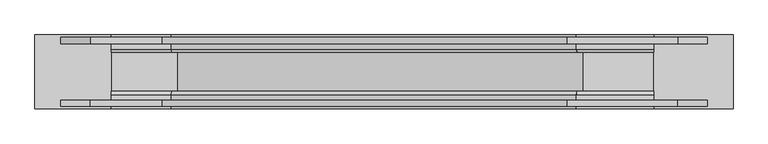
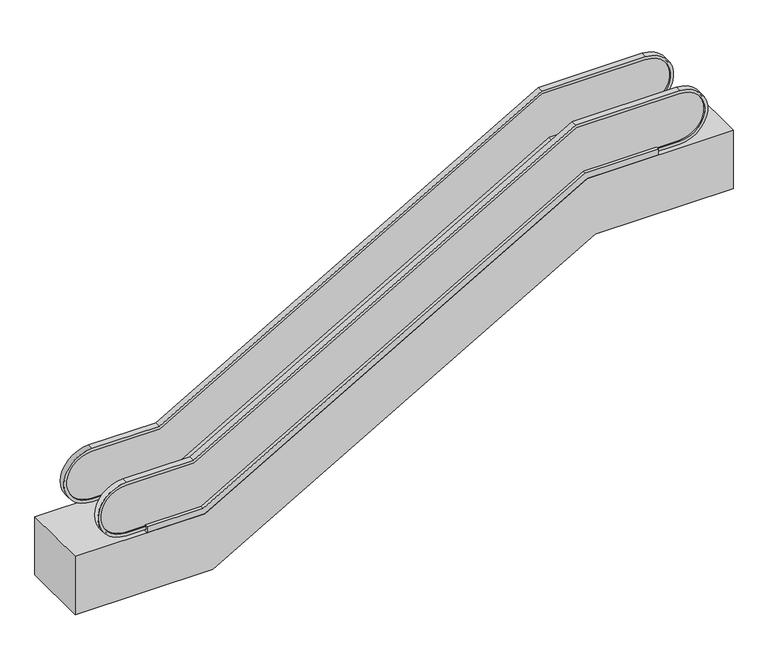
"""IFC4 building model written with IfcOpenShell, lengths in millimetres: proxy geometry, XX211- 에스컬레이터 공칭스텝폭 800 : 800형."""

from ifc_helpers import new_model, si_unit, point, frame, frame_2d, origin, place, context, project, spatial, polyline, circle_curve, trimmed, segment, composite_curve, outline, extrude, faceted_brep, source, transform, mapped, element, save
from ifc_brep_helpers import plane_surface, cylinder_surface, revolved_surface, advanced_brep


def electrical_equipment_015b20d0(model_context):
    return source(origin(), model_context, "Body", "SolidModel", [
        faceted_brep([(0.0, -575.0, 0.0), (-2145.0, -575.0, 0.0), (-2145.0, -575.0, -1020.0), (133.3081763, -575.0, -1020.0), (6455.2936239, -575.0, 2630.0), (8736.9854476, -575.0, 2630.0), (8736.9854476, -575.0, 3650.0), (6321.9854476, -575.0, 3650.0), (0.0, 575.0, 0.0), (6321.9854476, 575.0, 3650.0), (8736.9854476, 575.0, 3650.0), (8736.9854476, 575.0, 2630.0), (6455.2936239, 575.0, 2630.0), (133.3081763, 575.0, -1020.0), (-2145.0, 575.0, -1020.0), (-2145.0, 575.0, 0.0), (0.0, -465.0, 0.0), (-955.0, -465.0, 0.0), (-955.0, 465.0, 0.0), (0.0, 465.0, 0.0), (6321.9854476, 465.0, 3650.0), (7501.9854476, 465.0, 3650.0), (7501.9854476, -465.0, 3650.0), (6321.9854476, -465.0, 3650.0), (7501.9854476, -465.0, 3351.5648685), (6405.0806371, -465.0, 3351.5648685), (80.3847577, -465.0, -300.0), (-955.0, -465.0, -300.0), (-955.0, 465.0, -300.0), (80.3847577, 465.0, -300.0), (6405.0806371, 465.0, 3351.5648685), (7501.9854476, 465.0, 3351.5648685)], [[[0, 1, 2, 3, 4, 5, 6, 7]], [[8, 9, 10, 11, 12, 13, 14, 15]], [[1, 0, 16, 17, 18, 19, 8, 15]], [[2, 1, 15, 14]], [[3, 2, 14, 13]], [[4, 3, 13, 12]], [[5, 4, 12, 11]], [[6, 5, 11, 10]], [[7, 6, 10, 9, 20, 21, 22, 23]], [[0, 7, 23, 16]], [[9, 8, 19, 20]], [[22, 24, 25, 26, 27, 17, 16, 23]], [[18, 28, 29, 30, 31, 21, 20, 19]], [[17, 27, 28, 18]], [[27, 26, 29, 28]], [[26, 25, 30, 29]], [[25, 24, 31, 30]], [[24, 22, 21, 31]]]),
        advanced_brep(
        [(6161.0235533, 460.0, 4600.0), (6161.0235533, 520.0, 4600.0), (7871.9854476, 520.0, 4600.0), (7871.9854476, 460.0, 4600.0), (6169.0620291, 440.0, 4570.0), (6169.0620291, 460.0, 4570.0), (7871.9854476, 460.0, 4570.0), (7871.9854476, 440.0, 4570.0), (6155.6645695, 540.0, 4620.0), (6155.6645695, 440.0, 4620.0), (7871.9854476, 440.0, 4620.0), (7871.9854476, 540.0, 4620.0), (6169.0620291, 520.0, 4570.0), (6169.0620291, 540.0, 4570.0), (7871.9854476, 540.0, 4570.0), (7871.9854476, 520.0, 4570.0), (7871.9854476, 460.0, 3710.0), (7871.9854476, 520.0, 3710.0), (7871.9854476, 440.0, 3740.0), (7871.9854476, 460.0, 3740.0), (7871.9854476, 540.0, 3690.0), (7871.9854476, 440.0, 3690.0), (7871.9854476, 520.0, 3740.0), (7871.9854476, 540.0, 3740.0), (6329.8315445, 520.0, 3710.0), (6329.8315445, 460.0, 3710.0), (6321.7930688, 460.0, 3740.0), (6321.7930688, 440.0, 3740.0), (6335.1905284, 440.0, 3690.0), (6335.1905284, 540.0, 3690.0), (6321.7930688, 540.0, 3740.0), (6321.7930688, 520.0, 3740.0), (7.8460969, 520.0, 60.0), (7.8460969, 460.0, 60.0), (-0.1923789, 460.0, 90.0), (-0.1923789, 440.0, 90.0), (13.2050808, 440.0, 40.0), (13.2050808, 540.0, 40.0), (-0.1923789, 540.0, 90.0), (-0.1923789, 520.0, 90.0), (-1280.0, 520.0, 60.0), (-1280.0, 460.0, 60.0), (-1280.0, 460.0, 90.0), (-1280.0, 440.0, 90.0), (-1280.0, 440.0, 40.0), (-1280.0, 540.0, 40.0), (-1280.0, 540.0, 90.0), (-1280.0, 520.0, 90.0), (-1280.0, 460.0, 950.0), (-1280.0, 520.0, 950.0), (-1280.0, 440.0, 920.0), (-1280.0, 460.0, 920.0), (-1280.0, 540.0, 970.0), (-1280.0, 440.0, 970.0), (-1280.0, 520.0, 920.0), (-1280.0, 540.0, 920.0), (-160.9618943, 520.0, 950.0), (-160.9618943, 460.0, 950.0), (-152.9234186, 460.0, 920.0), (-152.9234186, 440.0, 920.0), (-166.3208782, 440.0, 970.0), (-166.3208782, 540.0, 970.0), (-152.9234186, 540.0, 920.0), (-152.9234186, 520.0, 920.0)],
        [
            (0, 1),
            (1, 2),
            (2, 3),
            (3, 0),
            (4, 5),
            (5, 6),
            (6, 7),
            (7, 4),
            (8, 9),
            (9, 10),
            (10, 11),
            (11, 8),
            (12, 13),
            (13, 14),
            (14, 15),
            (15, 12),
            (16, 3, circle_curve(frame((7871.9854476, 460.0, 4155.0), z_axis=(0.0, -1.0, 0.0), x_axis=(0.0, 0.0, 1.0)), 445.0)),
            (2, 17, circle_curve(frame((7871.9854476, 520.0, 4155.0), z_axis=(0.0, 1.0, 0.0), x_axis=(0.0, 0.0, 1.0)), 445.0)),
            (17, 16),
            (18, 7, circle_curve(frame((7871.9854476, 440.0, 4155.0), z_axis=(0.0, -1.0, 0.0), x_axis=(0.0, 0.0, 1.0)), 415.0)),
            (6, 19, circle_curve(frame((7871.9854476, 460.0, 4155.0), z_axis=(0.0, 1.0, 0.0), x_axis=(0.0, 0.0, 1.0)), 415.0)),
            (19, 18),
            (20, 11, circle_curve(frame((7871.9854476, 540.0, 4155.0), z_axis=(0.0, -1.0, 0.0), x_axis=(0.0, 0.0, 1.0)), 465.0)),
            (10, 21, circle_curve(frame((7871.9854476, 440.0, 4155.0), z_axis=(0.0, 1.0, 0.0), x_axis=(0.0, 0.0, 1.0)), 465.0)),
            (21, 20),
            (22, 15, circle_curve(frame((7871.9854476, 520.0, 4155.0), z_axis=(0.0, -1.0, 0.0), x_axis=(0.0, 0.0, 1.0)), 415.0)),
            (14, 23, circle_curve(frame((7871.9854476, 540.0, 4155.0), z_axis=(0.0, 1.0, 0.0), x_axis=(0.0, 0.0, 1.0)), 415.0)),
            (23, 22),
            (17, 24),
            (24, 25),
            (25, 16),
            (19, 26),
            (26, 27),
            (27, 18),
            (21, 28),
            (28, 29),
            (29, 20),
            (23, 30),
            (30, 31),
            (31, 22),
            (24, 32),
            (32, 33),
            (33, 25),
            (26, 34),
            (34, 35),
            (35, 27),
            (28, 36),
            (36, 37),
            (37, 29),
            (30, 38),
            (38, 39),
            (39, 31),
            (32, 40),
            (40, 41),
            (41, 33),
            (34, 42),
            (42, 43),
            (43, 35),
            (36, 44),
            (44, 45),
            (45, 37),
            (38, 46),
            (46, 47),
            (47, 39),
            (48, 41, circle_curve(frame((-1280.0, 460.0, 505.0), z_axis=(0.0, -1.0, 0.0), x_axis=(0.0, 0.0, -1.0)), 445.0)),
            (40, 49, circle_curve(frame((-1280.0, 520.0, 505.0), z_axis=(0.0, 1.0, 0.0), x_axis=(0.0, 0.0, -1.0)), 445.0)),
            (49, 48),
            (50, 43, circle_curve(frame((-1280.0, 440.0, 505.0), z_axis=(0.0, -1.0, 0.0), x_axis=(0.0, 0.0, -1.0)), 415.0)),
            (42, 51, circle_curve(frame((-1280.0, 460.0, 505.0), z_axis=(0.0, 1.0, 0.0), x_axis=(0.0, 0.0, -1.0)), 415.0)),
            (51, 50),
            (52, 45, circle_curve(frame((-1280.0, 540.0, 505.0), z_axis=(0.0, -1.0, 0.0), x_axis=(0.0, 0.0, -1.0)), 465.0)),
            (44, 53, circle_curve(frame((-1280.0, 440.0, 505.0), z_axis=(0.0, 1.0, 0.0), x_axis=(0.0, 0.0, -1.0)), 465.0)),
            (53, 52),
            (54, 47, circle_curve(frame((-1280.0, 520.0, 505.0), z_axis=(0.0, -1.0, 0.0), x_axis=(0.0, 0.0, -1.0)), 415.0)),
            (46, 55, circle_curve(frame((-1280.0, 540.0, 505.0), z_axis=(0.0, 1.0, 0.0), x_axis=(0.0, 0.0, -1.0)), 415.0)),
            (55, 54),
            (49, 56),
            (56, 57),
            (57, 48),
            (51, 58),
            (58, 59),
            (59, 50),
            (53, 60),
            (60, 61),
            (61, 52),
            (55, 62),
            (62, 63),
            (63, 54),
            (56, 1),
            (0, 57),
            (5, 58),
            (4, 59),
            (9, 60),
            (8, 61),
            (13, 62),
            (12, 63),
        ],
        [
            plane_surface(frame((6161.0235533, 520.0, 4600.0), z_axis=(0.0, 0.0, -1.0), x_axis=(1.0, 0.0, 0.0))),
            plane_surface(frame((6169.0620291, 460.0, 4570.0), z_axis=(0.0, 0.0, -1.0), x_axis=(1.0, 0.0, 0.0))),
            plane_surface(frame((6155.6645695, 440.0, 4620.0), z_axis=(0.0, 0.0, 1.0), x_axis=(1.0, 0.0, 0.0))),
            plane_surface(frame((6169.0620291, 540.0, 4570.0), z_axis=(0.0, 0.0, -1.0), x_axis=(1.0, 0.0, 0.0))),
            revolved_surface(polyline([(7871.9854476, 520.0, 4600.0), (7871.9854476, 460.0, 4600.0)]), (7871.9854476, 515.0, 4155.0), (0.0, 1.0, 0.0)),
            revolved_surface(polyline([(7871.9854476, 460.0, 4570.0), (7871.9854476, 440.0, 4570.0)]), (7871.9854476, 515.0, 4155.0), (0.0, 1.0, 0.0)),
            cylinder_surface(frame((7871.9854476, 515.0, 4155.0), z_axis=(0.0, 1.0, 0.0), x_axis=(0.0, 0.0, 1.0)), 465.0),
            revolved_surface(polyline([(7871.9854476, 540.0, 4570.0), (7871.9854476, 520.0, 4570.0)]), (7871.9854476, 515.0, 4155.0), (0.0, 1.0, 0.0)),
            plane_surface(frame((7871.9854476, 520.0, 3710.0), z_axis=(0.0, 0.0, 1.0), x_axis=(-1.0, 0.0, 0.0))),
            plane_surface(frame((7871.9854476, 460.0, 3740.0), z_axis=(0.0, 0.0, 1.0), x_axis=(-1.0, 0.0, 0.0))),
            plane_surface(frame((7871.9854476, 440.0, 3690.0), z_axis=(0.0, 0.0, -1.0), x_axis=(-1.0, 0.0, 0.0))),
            plane_surface(frame((7871.9854476, 540.0, 3740.0), z_axis=(0.0, 0.0, 1.0), x_axis=(-1.0, 0.0, 0.0))),
            plane_surface(frame((6329.8315445, 520.0, 3710.0), z_axis=(-0.49999999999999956, 0.0, 0.8660254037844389), x_axis=(-0.8660254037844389, 0.0, -0.49999999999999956))),
            plane_surface(frame((6321.7930688, 460.0, 3740.0), z_axis=(-0.4999999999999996, 0.0, 0.8660254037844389), x_axis=(-0.8660254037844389, 0.0, -0.4999999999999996))),
            plane_surface(frame((6335.1905284, 440.0, 3690.0), z_axis=(0.4999999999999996, 0.0, -0.8660254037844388), x_axis=(-0.8660254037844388, 0.0, -0.4999999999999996))),
            plane_surface(frame((6321.7930688, 540.0, 3740.0), z_axis=(-0.4999999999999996, 0.0, 0.8660254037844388), x_axis=(-0.8660254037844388, 0.0, -0.4999999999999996))),
            plane_surface(frame((7.8460969, 520.0, 60.0), z_axis=(0.0, 0.0, 1.0), x_axis=(-1.0, 0.0, 0.0))),
            plane_surface(frame((-0.1923789, 460.0, 90.0), z_axis=(0.0, 0.0, 1.0), x_axis=(-1.0, 0.0, 0.0))),
            plane_surface(frame((13.2050808, 440.0, 40.0), z_axis=(0.0, 0.0, -1.0), x_axis=(-1.0, 0.0, 0.0))),
            plane_surface(frame((-0.1923789, 540.0, 90.0), z_axis=(0.0, 0.0, 1.0), x_axis=(-1.0, 0.0, 0.0))),
            revolved_surface(polyline([(-1280.0, 520.0, 60.0), (-1280.0, 460.0, 60.0)]), (-1280.0, 515.0, 505.0), (0.0, 1.0, 0.0)),
            revolved_surface(polyline([(-1280.0, 460.0, 90.0), (-1280.0, 440.0, 90.0)]), (-1280.0, 515.0, 505.0), (0.0, 1.0, 0.0)),
            cylinder_surface(frame((-1280.0, 515.0, 505.0), z_axis=(0.0, 1.0, 0.0), x_axis=(0.0, 0.0, -1.0)), 465.0),
            revolved_surface(polyline([(-1280.0, 540.0, 90.0), (-1280.0, 520.0, 90.0)]), (-1280.0, 515.0, 505.0), (0.0, 1.0, 0.0)),
            plane_surface(frame((-1280.0, 520.0, 950.0), z_axis=(0.0, 0.0, -1.0), x_axis=(1.0, 0.0, 0.0))),
            plane_surface(frame((-1280.0, 460.0, 920.0), z_axis=(0.0, 0.0, -1.0), x_axis=(1.0, 0.0, 0.0))),
            plane_surface(frame((-1280.0, 440.0, 970.0), z_axis=(0.0, 0.0, 1.0), x_axis=(1.0, 0.0, 0.0))),
            plane_surface(frame((-1280.0, 540.0, 920.0), z_axis=(0.0, 0.0, -1.0), x_axis=(1.0, 0.0, 0.0))),
            plane_surface(frame((-160.9618943, 520.0, 950.0), z_axis=(0.49999999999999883, 0.0, -0.8660254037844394), x_axis=(0.8660254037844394, 0.0, 0.49999999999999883))),
            plane_surface(frame((-160.9618943, 460.0, 950.0), z_axis=(0.0, 1.0000000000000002, 0.0), x_axis=(0.8660254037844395, 0.0, 0.4999999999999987))),
            plane_surface(frame((-152.9234186, 460.0, 920.0), z_axis=(0.4999999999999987, 0.0, -0.8660254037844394), x_axis=(0.8660254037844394, 0.0, 0.4999999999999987))),
            plane_surface(frame((-152.9234186, 440.0, 920.0), z_axis=(0.0, -1.0, 0.0), x_axis=(0.8660254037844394, 0.0, 0.49999999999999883))),
            plane_surface(frame((-166.3208782, 440.0, 970.0), z_axis=(-0.4999999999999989, 0.0, 0.8660254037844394), x_axis=(0.8660254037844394, 0.0, 0.4999999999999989))),
            plane_surface(frame((-166.3208782, 540.0, 970.0), z_axis=(0.0, 1.0, 0.0), x_axis=(0.8660254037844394, 0.0, 0.49999999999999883))),
            plane_surface(frame((-152.9234186, 540.0, 920.0), z_axis=(0.4999999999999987, 0.0, -0.8660254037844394), x_axis=(0.8660254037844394, 0.0, 0.4999999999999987))),
            plane_surface(frame((-152.9234186, 520.0, 920.0), z_axis=(0.0, -1.0, 0.0), x_axis=(0.8660254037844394, 0.0, 0.4999999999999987))),
        ],
        [
            (0, [[1, 2, 3, 4]]),
            (1, [[5, 6, 7, 8]]),
            (2, [[9, 10, 11, 12]]),
            (3, [[13, 14, 15, 16]]),
            (4, [[17, -3, 18, 19]]),
            (5, [[20, -7, 21, 22]]),
            (6, [[23, -11, 24, 25]]),
            (7, [[26, -15, 27, 28]]),
            (8, [[-19, 29, 30, 31]]),
            (9, [[-22, 32, 33, 34]]),
            (10, [[-25, 35, 36, 37]]),
            (11, [[-28, 38, 39, 40]]),
            (12, [[-30, 41, 42, 43]]),
            (13, [[-33, 44, 45, 46]]),
            (14, [[-36, 47, 48, 49]]),
            (15, [[-39, 50, 51, 52]]),
            (16, [[-42, 53, 54, 55]]),
            (17, [[-45, 56, 57, 58]]),
            (18, [[-48, 59, 60, 61]]),
            (19, [[-51, 62, 63, 64]]),
            (20, [[65, -54, 66, 67]]),
            (21, [[68, -57, 69, 70]]),
            (22, [[71, -60, 72, 73]]),
            (23, [[74, -63, 75, 76]]),
            (24, [[-67, 77, 78, 79]]),
            (25, [[-70, 80, 81, 82]]),
            (26, [[-73, 83, 84, 85]]),
            (27, [[-76, 86, 87, 88]]),
            (28, [[-78, 89, -1, 90]]),
            (29, [[-65, -79, -90, -4, -17, -31, -43, -55], [91, -80, -69, -56, -44, -32, -21, -6]]),
            (30, [[-81, -91, -5, 92]]),
            (31, [[93, -83, -72, -59, -47, -35, -24, -10], [-68, -82, -92, -8, -20, -34, -46, -58]]),
            (32, [[-84, -93, -9, 94]]),
            (33, [[-71, -85, -94, -12, -23, -37, -49, -61], [95, -86, -75, -62, -50, -38, -27, -14]]),
            (34, [[-87, -95, -13, 96]]),
            (35, [[-89, -77, -66, -53, -41, -29, -18, -2], [-74, -88, -96, -16, -26, -40, -52, -64]]),
        ],
    ),
        advanced_brep(
        [(-160.9618943, -460.0, 950.0), (-160.9618943, -520.0, 950.0), (-1280.0, -520.0, 950.0), (-1280.0, -460.0, 950.0), (-152.9234186, -440.0, 920.0), (-152.9234186, -460.0, 920.0), (-1280.0, -460.0, 920.0), (-1280.0, -440.0, 920.0), (-166.3208782, -540.0, 970.0), (-166.3208782, -440.0, 970.0), (-1280.0, -440.0, 970.0), (-1280.0, -540.0, 970.0), (-152.9234186, -520.0, 920.0), (-152.9234186, -540.0, 920.0), (-1280.0, -540.0, 920.0), (-1280.0, -520.0, 920.0), (-1280.0, -460.0, 60.0), (-1280.0, -520.0, 60.0), (-1280.0, -440.0, 90.0), (-1280.0, -460.0, 90.0), (-1280.0, -540.0, 40.0), (-1280.0, -440.0, 40.0), (-1280.0, -520.0, 90.0), (-1280.0, -540.0, 90.0), (7.8460969, -520.0, 60.0), (7.8460969, -460.0, 60.0), (-0.1923789, -460.0, 90.0), (-0.1923789, -440.0, 90.0), (13.2050808, -440.0, 40.0), (13.2050808, -540.0, 40.0), (-0.1923789, -540.0, 90.0), (-0.1923789, -520.0, 90.0), (6329.8315445, -520.0, 3710.0), (6329.8315445, -460.0, 3710.0), (6321.7930688, -460.0, 3740.0), (6321.7930688, -440.0, 3740.0), (6335.1905284, -440.0, 3690.0), (6335.1905284, -540.0, 3690.0), (6321.7930688, -540.0, 3740.0), (6321.7930688, -520.0, 3740.0), (7871.9854476, -520.0, 3710.0), (7871.9854476, -460.0, 3710.0), (7871.9854476, -460.0, 3740.0), (7871.9854476, -440.0, 3740.0), (7871.9854476, -440.0, 3690.0), (7871.9854476, -540.0, 3690.0), (7871.9854476, -540.0, 3740.0), (7871.9854476, -520.0, 3740.0), (7871.9854476, -460.0, 4600.0), (7871.9854476, -520.0, 4600.0), (7871.9854476, -440.0, 4570.0), (7871.9854476, -460.0, 4570.0), (7871.9854476, -540.0, 4620.0), (7871.9854476, -440.0, 4620.0), (7871.9854476, -520.0, 4570.0), (7871.9854476, -540.0, 4570.0), (6161.0235533, -520.0, 4600.0), (6161.0235533, -460.0, 4600.0), (6169.0620291, -460.0, 4570.0), (6169.0620291, -440.0, 4570.0), (6155.6645695, -440.0, 4620.0), (6155.6645695, -540.0, 4620.0), (6169.0620291, -540.0, 4570.0), (6169.0620291, -520.0, 4570.0)],
        [
            (0, 1),
            (1, 2),
            (2, 3),
            (3, 0),
            (4, 5),
            (5, 6),
            (6, 7),
            (7, 4),
            (8, 9),
            (9, 10),
            (10, 11),
            (11, 8),
            (12, 13),
            (13, 14),
            (14, 15),
            (15, 12),
            (16, 3, circle_curve(frame((-1280.0, -460.0, 505.0), z_axis=(0.0, 1.0, 0.0), x_axis=(0.0, 0.0, 1.0)), 445.0)),
            (2, 17, circle_curve(frame((-1280.0, -520.0, 505.0), z_axis=(0.0, -1.0, 0.0), x_axis=(0.0, 0.0, 1.0)), 445.0)),
            (17, 16),
            (18, 7, circle_curve(frame((-1280.0, -440.0, 505.0), z_axis=(0.0, 1.0, 0.0), x_axis=(0.0, 0.0, 1.0)), 415.0)),
            (6, 19, circle_curve(frame((-1280.0, -460.0, 505.0), z_axis=(0.0, -1.0, 0.0), x_axis=(0.0, 0.0, 1.0)), 415.0)),
            (19, 18),
            (20, 11, circle_curve(frame((-1280.0, -540.0, 505.0), z_axis=(0.0, 1.0, 0.0), x_axis=(0.0, 0.0, 1.0)), 465.0)),
            (10, 21, circle_curve(frame((-1280.0, -440.0, 505.0), z_axis=(0.0, -1.0, 0.0), x_axis=(0.0, 0.0, 1.0)), 465.0)),
            (21, 20),
            (22, 15, circle_curve(frame((-1280.0, -520.0, 505.0), z_axis=(0.0, 1.0, 0.0), x_axis=(0.0, 0.0, 1.0)), 415.0)),
            (14, 23, circle_curve(frame((-1280.0, -540.0, 505.0), z_axis=(0.0, -1.0, 0.0), x_axis=(0.0, 0.0, 1.0)), 415.0)),
            (23, 22),
            (17, 24),
            (24, 25),
            (25, 16),
            (19, 26),
            (26, 27),
            (27, 18),
            (21, 28),
            (28, 29),
            (29, 20),
            (23, 30),
            (30, 31),
            (31, 22),
            (24, 32),
            (32, 33),
            (33, 25),
            (26, 34),
            (34, 35),
            (35, 27),
            (28, 36),
            (36, 37),
            (37, 29),
            (30, 38),
            (38, 39),
            (39, 31),
            (32, 40),
            (40, 41),
            (41, 33),
            (34, 42),
            (42, 43),
            (43, 35),
            (36, 44),
            (44, 45),
            (45, 37),
            (38, 46),
            (46, 47),
            (47, 39),
            (48, 41, circle_curve(frame((7871.9854476, -460.0, 4155.0), z_axis=(0.0, 1.0, 0.0), x_axis=(0.0, 0.0, -1.0)), 445.0)),
            (40, 49, circle_curve(frame((7871.9854476, -520.0, 4155.0), z_axis=(0.0, -1.0, 0.0), x_axis=(0.0, 0.0, -1.0)), 445.0)),
            (49, 48),
            (50, 43, circle_curve(frame((7871.9854476, -440.0, 4155.0), z_axis=(0.0, 1.0, 0.0), x_axis=(0.0, 0.0, -1.0)), 415.0)),
            (42, 51, circle_curve(frame((7871.9854476, -460.0, 4155.0), z_axis=(0.0, -1.0, 0.0), x_axis=(0.0, 0.0, -1.0)), 415.0)),
            (51, 50),
            (52, 45, circle_curve(frame((7871.9854476, -540.0, 4155.0), z_axis=(0.0, 1.0, 0.0), x_axis=(0.0, 0.0, -1.0)), 465.0)),
            (44, 53, circle_curve(frame((7871.9854476, -440.0, 4155.0), z_axis=(0.0, -1.0, 0.0), x_axis=(0.0, 0.0, -1.0)), 465.0)),
            (53, 52),
            (54, 47, circle_curve(frame((7871.9854476, -520.0, 4155.0), z_axis=(0.0, 1.0, 0.0), x_axis=(0.0, 0.0, -1.0)), 415.0)),
            (46, 55, circle_curve(frame((7871.9854476, -540.0, 4155.0), z_axis=(0.0, -1.0, 0.0), x_axis=(0.0, 0.0, -1.0)), 415.0)),
            (55, 54),
            (49, 56),
            (56, 57),
            (57, 48),
            (51, 58),
            (58, 59),
            (59, 50),
            (53, 60),
            (60, 61),
            (61, 52),
            (55, 62),
            (62, 63),
            (63, 54),
            (56, 1),
            (0, 57),
            (5, 58),
            (4, 59),
            (9, 60),
            (8, 61),
            (13, 62),
            (12, 63),
        ],
        [
            plane_surface(frame((-160.9618943, -520.0, 950.0), z_axis=(0.0, 0.0, -1.0), x_axis=(-1.0, 0.0, 0.0))),
            plane_surface(frame((-152.9234186, -460.0, 920.0), z_axis=(0.0, 0.0, -1.0), x_axis=(-1.0, 0.0, 0.0))),
            plane_surface(frame((-166.3208782, -440.0, 970.0), z_axis=(0.0, 0.0, 1.0), x_axis=(-1.0, 0.0, 0.0))),
            plane_surface(frame((-152.9234186, -540.0, 920.0), z_axis=(0.0, 0.0, -1.0), x_axis=(-1.0, 0.0, 0.0))),
            revolved_surface(polyline([(-1280.0, -520.0, 950.0), (-1280.0, -460.0, 950.0)]), (-1280.0, -515.0, 505.0), (0.0, -1.0, 0.0)),
            revolved_surface(polyline([(-1280.0, -460.0, 920.0), (-1280.0, -440.0, 920.0)]), (-1280.0, -515.0, 505.0), (0.0, -1.0, 0.0)),
            cylinder_surface(frame((-1280.0, -515.0, 505.0), z_axis=(0.0, -1.0, 0.0), x_axis=(0.0, 0.0, 1.0)), 465.0),
            revolved_surface(polyline([(-1280.0, -540.0, 920.0), (-1280.0, -520.0, 920.0)]), (-1280.0, -515.0, 505.0), (0.0, -1.0, 0.0)),
            plane_surface(frame((-1280.0, -520.0, 60.0), z_axis=(0.0, 0.0, 1.0), x_axis=(1.0, 0.0, 0.0))),
            plane_surface(frame((-1280.0, -460.0, 90.0), z_axis=(0.0, 0.0, 1.0), x_axis=(1.0, 0.0, 0.0))),
            plane_surface(frame((-1280.0, -440.0, 40.0), z_axis=(0.0, 0.0, -1.0), x_axis=(1.0, 0.0, 0.0))),
            plane_surface(frame((-1280.0, -540.0, 90.0), z_axis=(0.0, 0.0, 1.0), x_axis=(1.0, 0.0, 0.0))),
            plane_surface(frame((7.8460969, -520.0, 60.0), z_axis=(-0.5000000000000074, 0.0, 0.8660254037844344), x_axis=(0.8660254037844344, 0.0, 0.5000000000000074))),
            plane_surface(frame((-0.1923789, -460.0, 90.0), z_axis=(-0.5000000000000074, 0.0, 0.8660254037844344), x_axis=(0.8660254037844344, 0.0, 0.5000000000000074))),
            plane_surface(frame((13.2050808, -440.0, 40.0), z_axis=(0.5000000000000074, 0.0, -0.8660254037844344), x_axis=(0.8660254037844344, 0.0, 0.5000000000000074))),
            plane_surface(frame((-0.1923789, -540.0, 90.0), z_axis=(-0.5000000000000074, 0.0, 0.8660254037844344), x_axis=(0.8660254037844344, 0.0, 0.5000000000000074))),
            plane_surface(frame((6329.8315445, -520.0, 3710.0), z_axis=(0.0, 0.0, 1.0), x_axis=(1.0, 0.0, 0.0))),
            plane_surface(frame((6321.7930688, -460.0, 3740.0), z_axis=(0.0, 0.0, 1.0), x_axis=(1.0, 0.0, 0.0))),
            plane_surface(frame((6335.1905284, -440.0, 3690.0), z_axis=(0.0, 0.0, -1.0), x_axis=(1.0, 0.0, 0.0))),
            plane_surface(frame((6321.7930688, -540.0, 3740.0), z_axis=(0.0, 0.0, 1.0), x_axis=(1.0, 0.0, 0.0))),
            revolved_surface(polyline([(7871.9854476, -520.0, 3710.0), (7871.9854476, -460.0, 3710.0)]), (7871.9854476, -515.0, 4155.0), (0.0, -1.0, 0.0)),
            revolved_surface(polyline([(7871.9854476, -460.0, 3740.0), (7871.9854476, -440.0, 3740.0)]), (7871.9854476, -515.0, 4155.0), (0.0, -1.0, 0.0)),
            cylinder_surface(frame((7871.9854476, -515.0, 4155.0), z_axis=(0.0, -1.0, 0.0), x_axis=(0.0, 0.0, -1.0)), 465.0),
            revolved_surface(polyline([(7871.9854476, -540.0, 3740.0), (7871.9854476, -520.0, 3740.0)]), (7871.9854476, -515.0, 4155.0), (0.0, -1.0, 0.0)),
            plane_surface(frame((7871.9854476, -520.0, 4600.0), z_axis=(0.0, 0.0, -1.0), x_axis=(-1.0, 0.0, 0.0))),
            plane_surface(frame((7871.9854476, -460.0, 4570.0), z_axis=(0.0, 0.0, -1.0), x_axis=(-1.0, 0.0, 0.0))),
            plane_surface(frame((7871.9854476, -440.0, 4620.0), z_axis=(0.0, 0.0, 1.0), x_axis=(-1.0, 0.0, 0.0))),
            plane_surface(frame((7871.9854476, -540.0, 4570.0), z_axis=(0.0, 0.0, -1.0), x_axis=(-1.0, 0.0, 0.0))),
            plane_surface(frame((6161.0235533, -520.0, 4600.0), z_axis=(0.4999999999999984, 0.0, -0.8660254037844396), x_axis=(-0.8660254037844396, 0.0, -0.4999999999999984))),
            plane_surface(frame((6161.0235533, -460.0, 4600.0), z_axis=(0.0, -1.0000000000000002, 0.0), x_axis=(-0.8660254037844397, 0.0, -0.4999999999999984))),
            plane_surface(frame((6169.0620291, -460.0, 4570.0), z_axis=(0.4999999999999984, 0.0, -0.8660254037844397), x_axis=(-0.8660254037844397, 0.0, -0.4999999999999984))),
            plane_surface(frame((6169.0620291, -440.0, 4570.0), z_axis=(0.0, 1.0, 0.0), x_axis=(-0.8660254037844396, 0.0, -0.49999999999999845))),
            plane_surface(frame((6155.6645695, -440.0, 4620.0), z_axis=(-0.4999999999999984, 0.0, 0.8660254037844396), x_axis=(-0.8660254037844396, 0.0, -0.4999999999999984))),
            plane_surface(frame((6155.6645695, -540.0, 4620.0), z_axis=(0.0, -1.0, 0.0), x_axis=(-0.8660254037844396, 0.0, -0.4999999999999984))),
            plane_surface(frame((6169.0620291, -540.0, 4570.0), z_axis=(0.4999999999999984, 0.0, -0.8660254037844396), x_axis=(-0.8660254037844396, 0.0, -0.4999999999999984))),
            plane_surface(frame((6169.0620291, -520.0, 4570.0), z_axis=(0.0, 1.0, 0.0), x_axis=(-0.8660254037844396, 0.0, -0.4999999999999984))),
        ],
        [
            (0, [[1, 2, 3, 4]]),
            (1, [[5, 6, 7, 8]]),
            (2, [[9, 10, 11, 12]]),
            (3, [[13, 14, 15, 16]]),
            (4, [[17, -3, 18, 19]]),
            (5, [[20, -7, 21, 22]]),
            (6, [[23, -11, 24, 25]]),
            (7, [[26, -15, 27, 28]]),
            (8, [[-19, 29, 30, 31]]),
            (9, [[-22, 32, 33, 34]]),
            (10, [[-25, 35, 36, 37]]),
            (11, [[-28, 38, 39, 40]]),
            (12, [[-30, 41, 42, 43]]),
            (13, [[-33, 44, 45, 46]]),
            (14, [[-36, 47, 48, 49]]),
            (15, [[-39, 50, 51, 52]]),
            (16, [[-42, 53, 54, 55]]),
            (17, [[-45, 56, 57, 58]]),
            (18, [[-48, 59, 60, 61]]),
            (19, [[-51, 62, 63, 64]]),
            (20, [[65, -54, 66, 67]]),
            (21, [[68, -57, 69, 70]]),
            (22, [[71, -60, 72, 73]]),
            (23, [[74, -63, 75, 76]]),
            (24, [[-67, 77, 78, 79]]),
            (25, [[-70, 80, 81, 82]]),
            (26, [[-73, 83, 84, 85]]),
            (27, [[-76, 86, 87, 88]]),
            (28, [[-78, 89, -1, 90]]),
            (29, [[-65, -79, -90, -4, -17, -31, -43, -55], [91, -80, -69, -56, -44, -32, -21, -6]]),
            (30, [[-81, -91, -5, 92]]),
            (31, [[93, -83, -72, -59, -47, -35, -24, -10], [-68, -82, -92, -8, -20, -34, -46, -58]]),
            (32, [[-84, -93, -9, 94]]),
            (33, [[-71, -85, -94, -12, -23, -37, -49, -61], [95, -86, -75, -62, -50, -38, -27, -14]]),
            (34, [[-87, -95, -13, 96]]),
            (35, [[-89, -77, -66, -53, -41, -29, -18, -2], [-74, -88, -96, -16, -26, -40, -52, -64]]),
        ],
    ),
        faceted_brep([(-955.0, 575.0, 100.0), (-955.0, 575.0, 0.0), (-955.0, 305.0, 0.0), (-955.0, 305.0, 49.4974747), (-955.0, 355.5025253, 100.0), (-26.7949192, 575.0, 100.0), (6295.1905284, 575.0, 3750.0), (7501.9854476, 575.0, 3750.0), (7501.9854476, 575.0, 3650.0), (6321.9854476, 575.0, 3650.0), (0.0, 575.0, 0.0), (0.0, 305.0, 0.0), (6321.9854476, 305.0, 3650.0), (7501.9854476, 305.0, 3650.0), (7501.9854476, 305.0, 3699.4974747), (6308.7226393, 305.0, 3699.4974747), (-13.2628084, 305.0, 49.4974747), (-26.7949192, 355.5025253, 100.0), (6295.1905284, 355.5025253, 3750.0), (7501.9854476, 355.5025253, 3750.0)], [[[0, 1, 2, 3, 4]], [[1, 0, 5, 6, 7, 8, 9, 10]], [[2, 1, 10, 11]], [[3, 2, 11, 12, 13, 14, 15, 16]], [[4, 3, 16, 17]], [[0, 4, 17, 5]], [[11, 10, 9, 12]], [[17, 16, 15, 18]], [[5, 17, 18, 6]], [[7, 19, 14, 13, 8]], [[12, 9, 8, 13]], [[18, 15, 14, 19]], [[6, 18, 19, 7]]]),
        faceted_brep([(7501.9854476, -575.0, 3750.0), (7501.9854476, -575.0, 3650.0), (7501.9854476, -305.0, 3650.0), (7501.9854476, -305.0, 3699.4974747), (7501.9854476, -355.5025253, 3750.0), (6295.1905284, -575.0, 3750.0), (-26.7949192, -575.0, 100.0), (-955.0, -575.0, 100.0), (-955.0, -575.0, 0.0), (0.0, -575.0, 0.0), (6321.9854476, -575.0, 3650.0), (6321.9854476, -305.0, 3650.0), (0.0, -305.0, 0.0), (-955.0, -305.0, 0.0), (-955.0, -305.0, 49.4974747), (-13.2628084, -305.0, 49.4974747), (6308.7226393, -305.0, 3699.4974747), (6295.1905284, -355.5025253, 3750.0), (-26.7949192, -355.5025253, 100.0), (-955.0, -355.5025253, 100.0)], [[[0, 1, 2, 3, 4]], [[1, 0, 5, 6, 7, 8, 9, 10]], [[2, 1, 10, 11]], [[3, 2, 11, 12, 13, 14, 15, 16]], [[4, 3, 16, 17]], [[0, 4, 17, 5]], [[11, 10, 9, 12]], [[17, 16, 15, 18]], [[5, 17, 18, 6]], [[7, 19, 14, 13, 8]], [[12, 9, 8, 13]], [[18, 15, 14, 19]], [[6, 18, 19, 7]]]),
        extrude(outline(composite_curve([segment(polyline([(4600.0, 6161.0235533), (950.0, -160.9618943), (950.0, -1280.0)]), True, "CONTINUOUS"), segment(trimmed(circle_curve(frame_2d((505.0, -1280.0)), 445.0), [point((950.0, -1280.0))], [point((60.0, -1280.0))], False, "CARTESIAN"), True, "CONTINUOUS"), segment(polyline([(60.0, -1280.0), (60.0, 7.8460969), (3710.0, 6329.8315445), (3710.0, 7871.9854476)]), True, "CONTINUOUS"), segment(trimmed(circle_curve(frame_2d((4155.0, 7871.9854476)), 445.0), [point((3710.0, 7871.9854476))], [point((4600.0, 7871.9854476))], False, "CARTESIAN"), True, "CONTINUOUS"), segment(polyline([(4600.0, 7871.9854476), (4600.0, 6161.0235533)]), True, "CONTINUOUS")], self_intersect=False)), frame((0.0, -515.0, 0.0), z_axis=(0.0, 1.0, 0.0), x_axis=(0.0, 0.0, 1.0)), (0.0, 0.0, 1.0), 50.0),
        extrude(outline(composite_curve([segment(polyline([(60.0, 7.8460969), (3710.0, 6329.8315445), (3710.0, 7871.9854476)]), True, "CONTINUOUS"), segment(trimmed(circle_curve(frame_2d((4155.0, 7871.9854476)), 445.0), [point((3710.0, 7871.9854476))], [point((4600.0, 7871.9854476))], False, "CARTESIAN"), True, "CONTINUOUS"), segment(polyline([(4600.0, 7871.9854476), (4600.0, 6161.0235533), (950.0, -160.9618943), (950.0, -1280.0)]), True, "CONTINUOUS"), segment(trimmed(circle_curve(frame_2d((505.0, -1280.0)), 445.0), [point((950.0, -1280.0))], [point((60.0, -1280.0))], False, "CARTESIAN"), True, "CONTINUOUS"), segment(polyline([(60.0, -1280.0), (60.0, 7.8460969)]), True, "CONTINUOUS")], self_intersect=False)), frame((0.0, 465.0, 0.0), z_axis=(0.0, 1.0, 0.0), x_axis=(0.0, 0.0, 1.0)), (0.0, 0.0, 1.0), 50.0),
    ])


if __name__ == "__main__":
    model = new_model("IFC4")
    model_context = context("Model", 3, world=origin())
    ifc_project = project(units=[si_unit("LENGTHUNIT", "METRE", prefix="MILLI")], contexts=[model_context])
    site = spatial("IfcSite", under=ifc_project)
    building = spatial("IfcBuilding", under=site)
    placement = place(None, origin())
    electrical_equipment_shape = electrical_equipment_015b20d0(model_context)
    element("IfcBuildingElementProxy", 1, Name="XX211- 에스컬레이터 공칭스텝폭 800 : 800형", ObjectType="XX211- 에스컬레이터 공칭스텝폭 800 : 800형", at=placement, inside=building, context=model_context, shape_type="MappedRepresentation", body=[
        mapped(electrical_equipment_shape, transform((0.0, 0.0, 0.0), x_axis=(1.0, 0.0, 0.0), y_axis=(0.0, 1.0, 0.0), z_axis=(0.0, 0.0, 1.0))),
    ])
    save(model, "model.ifc")
